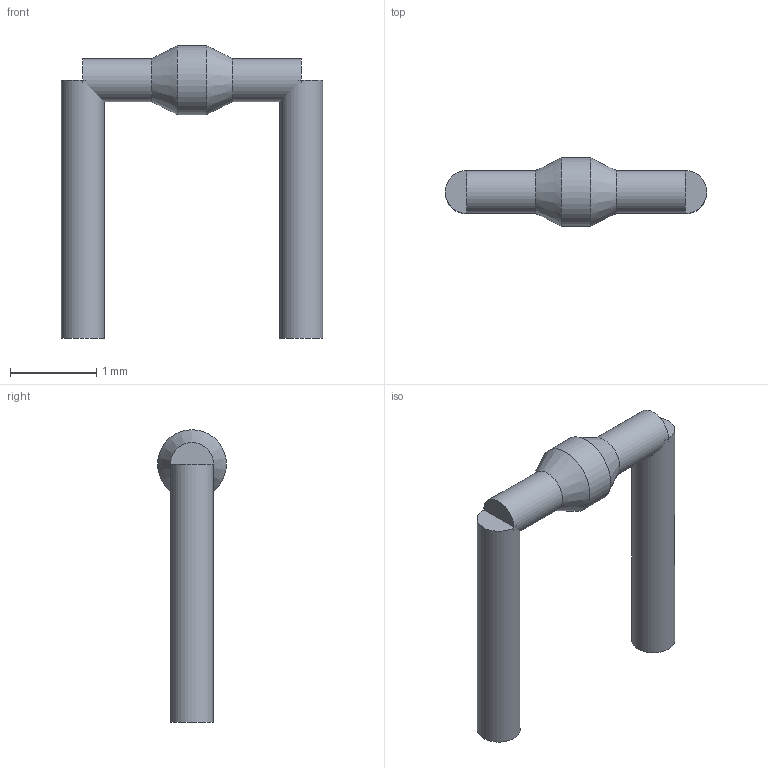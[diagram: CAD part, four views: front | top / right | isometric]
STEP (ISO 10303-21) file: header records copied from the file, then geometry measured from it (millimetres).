
FILE_DESCRIPTION(('FreeCAD Model'),'2;1');
FILE_NAME('Open CASCADE Shape Model','2026-04-07T19:07:43',('FreeCAD'),( 'FreeCAD'),'Open CASCADE STEP processor 7.8','FreeCAD','Unknown');
FILE_SCHEMA(('AUTOMOTIVE_DESIGN { 1 0 10303 214 1 1 1 1 }'));
Length unit declared in the file: millimetre
Products named in the file (1): Open CASCADE STEP translator 7.8 1
Bounding box: 3.04 x 0.8 x 3.4 mm (x, y, z)
Volume: 2.1 mm3; surface area: 17.2 mm2
Topology: 4 solids, 4 shells, 14 faces, 16 edges, 10 vertices
Faces by surface type: plane 8, cylinder 4, cone 2
Full cylindrical faces by diameter (mm): 0.5 x3, 0.8 x1
Entity records: 287 total; most frequent: DIRECTION 56, CARTESIAN_POINT 41, ORIENTED_EDGE 32, AXIS2_PLACEMENT_3D 25, EDGE_CURVE 16, ADVANCED_FACE 14, FACE_BOUND 14, EDGE_LOOP 14
